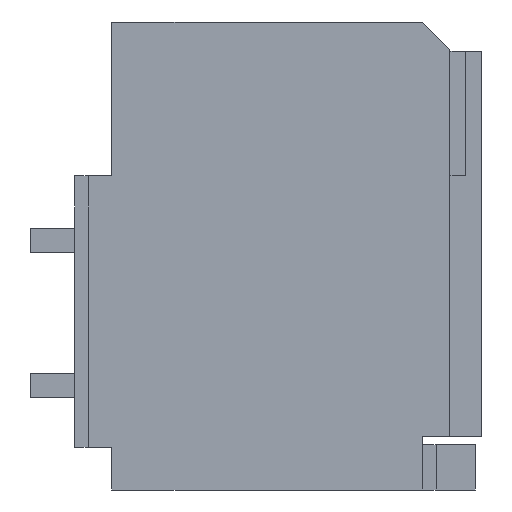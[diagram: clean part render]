
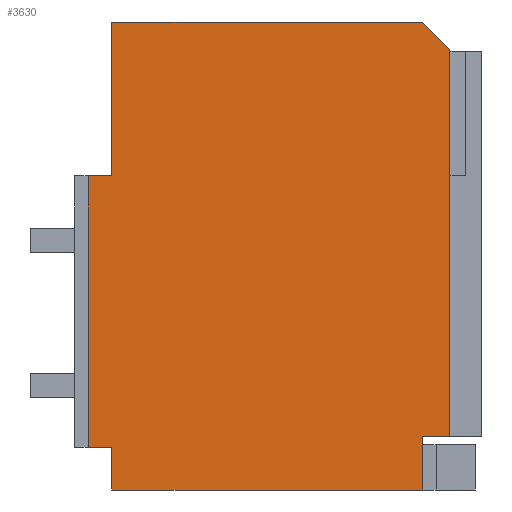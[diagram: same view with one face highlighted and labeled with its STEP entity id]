
A CAD part, left-side view. The second image highlights one B-rep face of the part: STEP entity #3630.
In plain terms, the highlighted planar face has unit normal (-1, 0, 0).
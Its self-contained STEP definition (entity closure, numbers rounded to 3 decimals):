
#47 = EDGE_CURVE ( 'NONE', #58, #1342, #489, .T. ) ;
#58 = VERTEX_POINT ( 'NONE', #2017 ) ;
#269 = LINE ( 'NONE', #2088, #3878 ) ;
#273 = LINE ( 'NONE', #2693, #2529 ) ;
#281 = CARTESIAN_POINT ( 'NONE',  ( -137.5, -106.5, 39.5 ) ) ;
#295 = DIRECTION ( 'NONE',  ( 0., 0., -1. ) ) ;
#376 = VERTEX_POINT ( 'NONE', #1276 ) ;
#381 = ORIENTED_EDGE ( 'NONE', *, *, #2199, .F. ) ;
#387 = ORIENTED_EDGE ( 'NONE', *, *, #2574, .F. ) ;
#396 = ORIENTED_EDGE ( 'NONE', *, *, #554, .T. ) ;
#489 = LINE ( 'NONE', #1455, #3799 ) ;
#504 = VERTEX_POINT ( 'NONE', #3291 ) ;
#554 = EDGE_CURVE ( 'NONE', #3858, #1412, #2943, .T. ) ;
#583 = VECTOR ( 'NONE', #3563, 1000. ) ;
#695 = EDGE_CURVE ( 'NONE', #1342, #3472, #1598, .T. ) ;
#703 = DIRECTION ( 'NONE',  ( 0., 0., -1. ) ) ;
#705 = LINE ( 'NONE', #3991, #750 ) ;
#735 = CARTESIAN_POINT ( 'NONE',  ( -137.5, 150., 231.5 ) ) ;
#750 = VECTOR ( 'NONE', #2383, 1000. ) ;
#778 = ORIENTED_EDGE ( 'NONE', *, *, #47, .T. ) ;
#902 = VERTEX_POINT ( 'NONE', #1909 ) ;
#933 = CARTESIAN_POINT ( 'NONE',  ( -137.5, -106.5, 0. ) ) ;
#956 = LINE ( 'NONE', #1549, #1513 ) ;
#973 = PLANE ( 'NONE',  #2636 ) ;
#992 = DIRECTION ( 'NONE',  ( 1., 0., 0. ) ) ;
#1079 = FACE_OUTER_BOUND ( 'NONE', #3544, .T. ) ;
#1100 = ORIENTED_EDGE ( 'NONE', *, *, #3057, .F. ) ;
#1109 = VECTOR ( 'NONE', #3606, 1000. ) ;
#1276 = CARTESIAN_POINT ( 'NONE',  ( -137.5, -126.5, 39.5 ) ) ;
#1342 = VERTEX_POINT ( 'NONE', #3465 ) ;
#1412 = VERTEX_POINT ( 'NONE', #2180 ) ;
#1455 = CARTESIAN_POINT ( 'NONE',  ( -137.5, 122.5, 31.5 ) ) ;
#1480 = LINE ( 'NONE', #281, #3702 ) ;
#1513 = VECTOR ( 'NONE', #3420, 1000. ) ;
#1549 = CARTESIAN_POINT ( 'NONE',  ( -137.5, 150., 345. ) ) ;
#1598 = LINE ( 'NONE', #3995, #3325 ) ;
#1759 = VERTEX_POINT ( 'NONE', #3954 ) ;
#1803 = ORIENTED_EDGE ( 'NONE', *, *, #1856, .F. ) ;
#1812 = ORIENTED_EDGE ( 'NONE', *, *, #3204, .F. ) ;
#1821 = VERTEX_POINT ( 'NONE', #3072 ) ;
#1831 = EDGE_CURVE ( 'NONE', #504, #902, #3132, .T. ) ;
#1856 = EDGE_CURVE ( 'NONE', #2327, #1412, #956, .T. ) ;
#1909 = CARTESIAN_POINT ( 'NONE',  ( -137.5, 140., 231.5 ) ) ;
#1975 = CARTESIAN_POINT ( 'NONE',  ( -137.5, -126.5, 325. ) ) ;
#2017 = CARTESIAN_POINT ( 'NONE',  ( -137.5, 122.5, 31.5 ) ) ;
#2088 = CARTESIAN_POINT ( 'NONE',  ( -137.5, -126.5, 39.5 ) ) ;
#2129 = EDGE_CURVE ( 'NONE', #1759, #2327, #705, .T. ) ;
#2180 = CARTESIAN_POINT ( 'NONE',  ( -137.5, -106.5, 345. ) ) ;
#2181 = ORIENTED_EDGE ( 'NONE', *, *, #2129, .F. ) ;
#2184 = VECTOR ( 'NONE', #2355, 1000. ) ;
#2199 = EDGE_CURVE ( 'NONE', #3858, #376, #269, .T. ) ;
#2261 = CARTESIAN_POINT ( 'NONE',  ( -137.5, 150., 345. ) ) ;
#2327 = VERTEX_POINT ( 'NONE', #3828 ) ;
#2355 = DIRECTION ( 'NONE',  ( 0., 1., 0. ) ) ;
#2383 = DIRECTION ( 'NONE',  ( 0., 0., 1. ) ) ;
#2529 = VECTOR ( 'NONE', #2977, 1000. ) ;
#2574 = EDGE_CURVE ( 'NONE', #376, #1821, #2983, .T. ) ;
#2636 = AXIS2_PLACEMENT_3D ( 'NONE', #2261, #992, #703 ) ;
#2690 = ORIENTED_EDGE ( 'NONE', *, *, #3974, .F. ) ;
#2693 = CARTESIAN_POINT ( 'NONE',  ( -137.5, 122.5, 31.5 ) ) ;
#2770 = CARTESIAN_POINT ( 'NONE',  ( -137.5, 140., -21.453 ) ) ;
#2883 = ORIENTED_EDGE ( 'NONE', *, *, #695, .T. ) ;
#2926 = CARTESIAN_POINT ( 'NONE',  ( -137.5, -126.5, 325. ) ) ;
#2943 = LINE ( 'NONE', #2926, #1109 ) ;
#2977 = DIRECTION ( 'NONE',  ( 0., 1., 0. ) ) ;
#2983 = LINE ( 'NONE', #3957, #2184 ) ;
#2999 = DIRECTION ( 'NONE',  ( 0., -1., 0. ) ) ;
#3057 = EDGE_CURVE ( 'NONE', #902, #1759, #3227, .T. ) ;
#3072 = CARTESIAN_POINT ( 'NONE',  ( -137.5, -106.5, 39.5 ) ) ;
#3111 = DIRECTION ( 'NONE',  ( 0., 0., 1. ) ) ;
#3132 = LINE ( 'NONE', #2770, #3273 ) ;
#3204 = EDGE_CURVE ( 'NONE', #58, #504, #273, .T. ) ;
#3227 = LINE ( 'NONE', #735, #583 ) ;
#3273 = VECTOR ( 'NONE', #3111, 1000. ) ;
#3291 = CARTESIAN_POINT ( 'NONE',  ( -137.5, 140., 31.5 ) ) ;
#3325 = VECTOR ( 'NONE', #2999, 1000. ) ;
#3341 = DIRECTION ( 'NONE',  ( 0., 0., -1. ) ) ;
#3392 = DIRECTION ( 'NONE',  ( 0., 0., -1. ) ) ;
#3420 = DIRECTION ( 'NONE',  ( 0., -1., 0. ) ) ;
#3465 = CARTESIAN_POINT ( 'NONE',  ( -137.5, 122.5, 0. ) ) ;
#3472 = VERTEX_POINT ( 'NONE', #933 ) ;
#3544 = EDGE_LOOP ( 'NONE', ( #381, #396, #1803, #2181, #1100, #4039, #1812, #778, #2883, #2690, #387 ) ) ;
#3563 = DIRECTION ( 'NONE',  ( 0., -1., 0. ) ) ;
#3606 = DIRECTION ( 'NONE',  ( 0., 0.707, 0.707 ) ) ;
#3630 = ADVANCED_FACE ( 'NONE', ( #1079 ), #973, .F. ) ;
#3702 = VECTOR ( 'NONE', #295, 1000. ) ;
#3799 = VECTOR ( 'NONE', #3341, 1000. ) ;
#3828 = CARTESIAN_POINT ( 'NONE',  ( -137.5, 122.5, 345. ) ) ;
#3858 = VERTEX_POINT ( 'NONE', #1975 ) ;
#3878 = VECTOR ( 'NONE', #3392, 1000. ) ;
#3954 = CARTESIAN_POINT ( 'NONE',  ( -137.5, 122.5, 231.5 ) ) ;
#3957 = CARTESIAN_POINT ( 'NONE',  ( -137.5, -150., 39.5 ) ) ;
#3974 = EDGE_CURVE ( 'NONE', #1821, #3472, #1480, .T. ) ;
#3991 = CARTESIAN_POINT ( 'NONE',  ( -137.5, 122.5, 231.5 ) ) ;
#3995 = CARTESIAN_POINT ( 'NONE',  ( -137.5, 150., 0. ) ) ;
#4039 = ORIENTED_EDGE ( 'NONE', *, *, #1831, .F. ) ;
